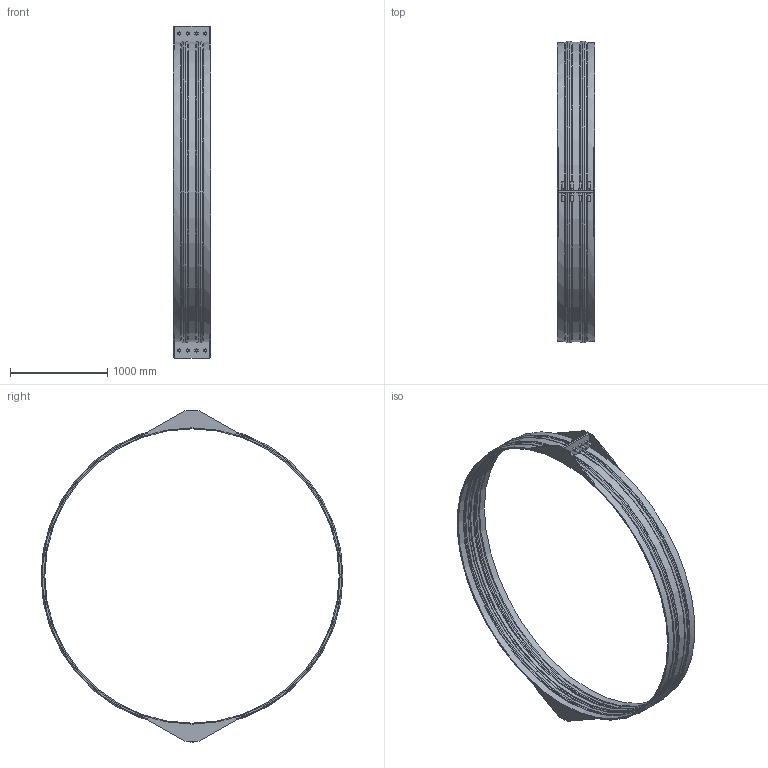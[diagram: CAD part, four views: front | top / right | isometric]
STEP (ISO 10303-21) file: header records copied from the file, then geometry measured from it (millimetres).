
FILE_DESCRIPTION(/* description */ ('VIC RESTRAINED COUPLING STYLE 233 (FLEX) (BRD)','CAx-IF Rec.Pracs.---Representation and Presentation of Product Manufacturing Information (PMI)---4.0---2014-10-13'),/* implementation_level */ '2;1');
FILE_NAME(/* name */ 'C:\Users\Vjadhav\Desktop\CAD for Inventor\Test for STEP\Vivek\Adsk_Inventor_Bolted Sleeve_iParts\STEP\Victaulic_VBSP_Coupling Flexible Restrained_Style 233 (BRD)\Victaulic_VBSP_Coupling Flexible Restrained_Style 233 (BRD)_125psi_120 (3000).stp',/* time_stamp */ '2020-09-24T12:32:11+05:00',/* author */ ('Vjadhav'),/* organization */ ('Victaulic'),/* preprocessor_version */ 'ST-DEVELOPER v17.2',/* originating_system */ 'Autodesk Inventor 2019',/* authorisation */ '');
FILE_SCHEMA (('AP242_MANAGED_MODEL_BASED_3D_ENGINEERING_MIM_LF { 1 0 10303 442 1 1 4 }'));
Length unit declared in the file: inch
Products named in the file (1): Style_233_Type_2_125psi-120.0
Bounding box: 381 x 3106.44 x 3416.3 mm (x, y, z)
Volume: 69397584.9 mm3; surface area: 9070391.4 mm2
Topology: 1 solids, 1 shells, 239 faces, 625 edges, 422 vertices
Faces by surface type: plane 166, cylinder 43, torus 18, cone 12
Full cylindrical faces by diameter (mm): 25.4 x16, 3028.95 x1, 3048 x2, 3054.35 x2
Entity records: 7896 total; most frequent: CARTESIAN_POINT 1496, DIRECTION 1259, ORIENTED_EDGE 1250, EDGE_CURVE 625, LINE 449, VECTOR 449, VERTEX_POINT 422, AXIS2_PLACEMENT_3D 405
